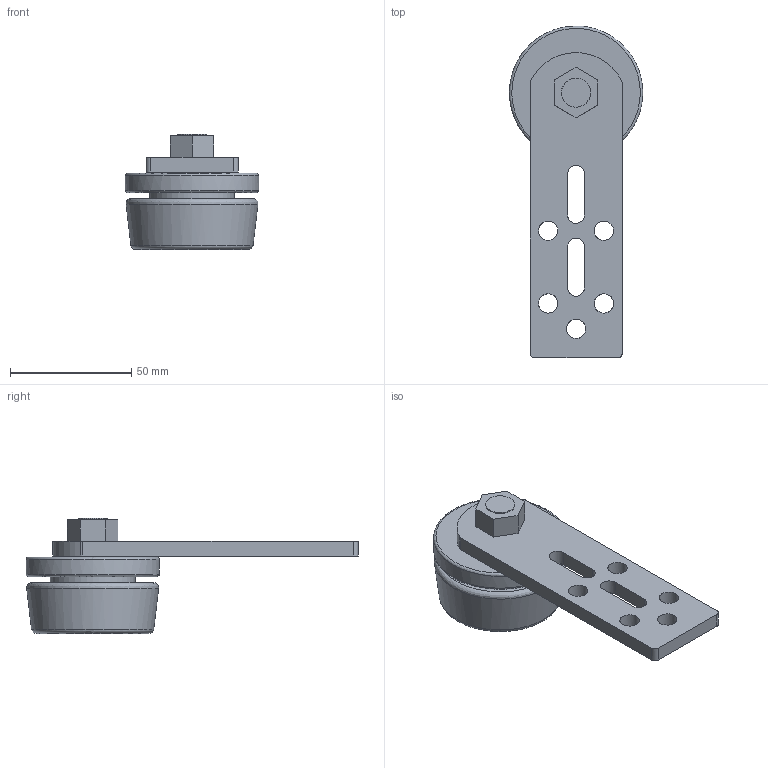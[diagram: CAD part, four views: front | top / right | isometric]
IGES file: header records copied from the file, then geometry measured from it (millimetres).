
Global section: file name: DR_ROL-C3; native system: Autodesk Inventor 2015; preprocessor: unknown; author: user; date: 20171013.105929; units: millimetre
Bounding box: 54.96 x 137 x 47.5 mm (x, y, z)
Volume: 91768.4 mm3; surface area: 28607.3 mm2
Topology: 4 solids, 4 shells, 57 faces, 151 edges, 106 vertices
Faces by surface type: bspline 57
